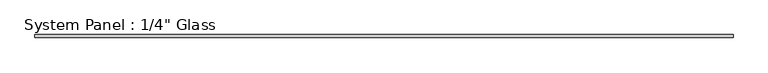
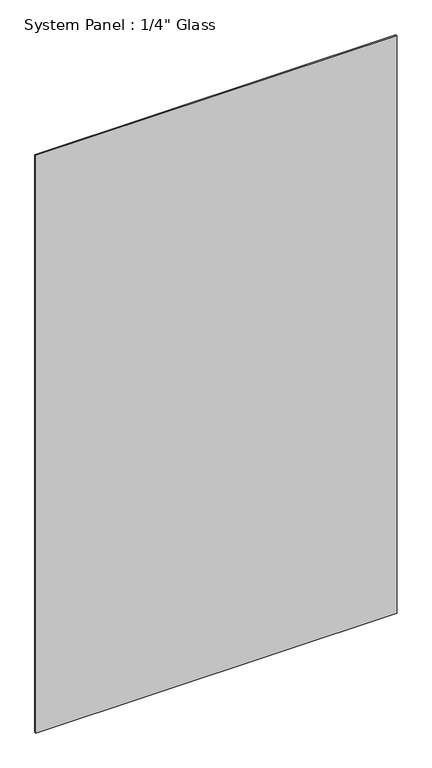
"""IFC4 building model written with IfcOpenShell, lengths in millimetres: plate geometry."""

from ifc_helpers import new_model, si_unit, origin, origin_with_axes, place, context, project, spatial, polyline, outline, extrude, source, transform, mapped, element, save


def plate_e0fd5134(model_context):
    return source(origin(), model_context, "Body", "SweptSolid", [
        extrude(outline(polyline([(736.5947668, -3.175), (-736.5947668, -3.175), (-736.5947668, 3.175), (736.5947668, 3.175), (736.5947668, -3.175)])), origin_with_axes(), (0.0, 0.0, 1.0), 2489.2),
    ])


if __name__ == "__main__":
    model = new_model("IFC4")
    model_context = context("Model", 3, world=origin())
    ifc_project = project(units=[si_unit("LENGTHUNIT", "METRE", prefix="MILLI")], contexts=[model_context])
    site = spatial("IfcSite", under=ifc_project)
    building = spatial("IfcBuilding", under=site)
    placement = place(None, origin())
    plate_shape = plate_e0fd5134(model_context)
    element("IfcPlate", 1, ObjectType="System Panel : 1/4\" Glass", at=placement, inside=building, context=model_context, shape_type="MappedRepresentation", body=[
        mapped(plate_shape, transform((0.0, 0.0, 0.0), x_axis=(1.0, 0.0, 0.0), y_axis=(0.0, 1.0, 0.0), z_axis=(0.0, 0.0, 1.0))),
    ])
    save(model, "model.ifc")
